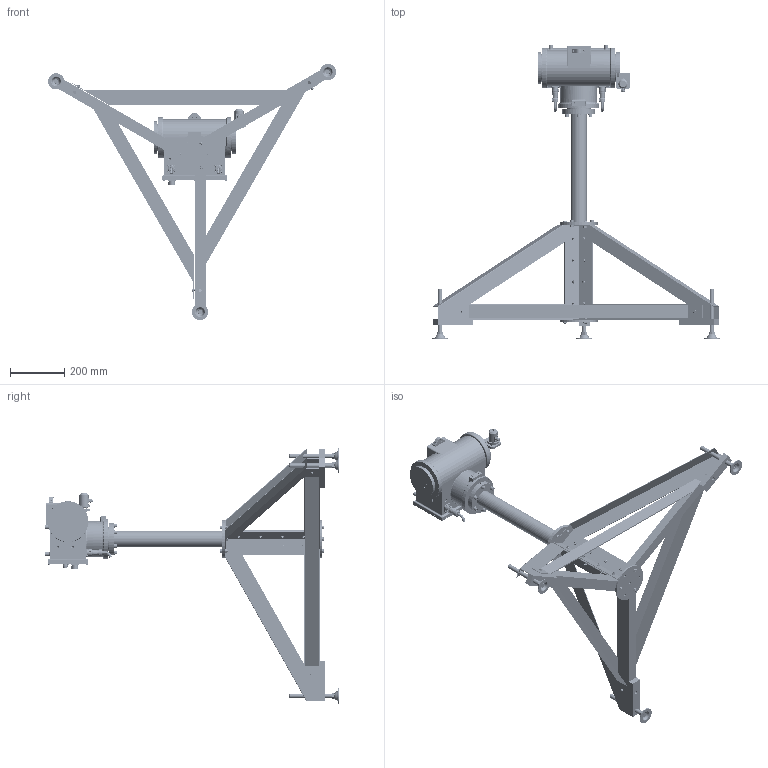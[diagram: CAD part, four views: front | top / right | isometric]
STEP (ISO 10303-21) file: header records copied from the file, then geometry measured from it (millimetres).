
FILE_DESCRIPTION (( 'STEP AP203' ), '1' );
FILE_NAME ('STR-32G.STEP', '2023-03-29T08:37:26', ( '' ), ( '' ), 'SwSTEP 2.0', 'SolidWorks 2022', '' );
FILE_SCHEMA (( 'CONFIG_CONTROL_DESIGN' ));
Products named in the file (1): STR-32G
Bounding box: 1064.59 x 1087 x 947.26 mm (x, y, z)
Volume: 12921932.8 mm3; surface area: 2091814 mm2
Topology: 107 solids, 134 shells, 6277 faces, 15233 edges, 9569 vertices
Faces by surface type: plane 2821, cylinder 1480, bspline 805, cone 726, torus 399, sphere 46
Entity records: 214762 total; most frequent: CARTESIAN_POINT 71730, ORIENTED_EDGE 30142, DIRECTION 28524, EDGE_CURVE 15071, AXIS2_PLACEMENT_3D 10637, VERTEX_POINT 9568, VECTOR 7250, LINE 7250
